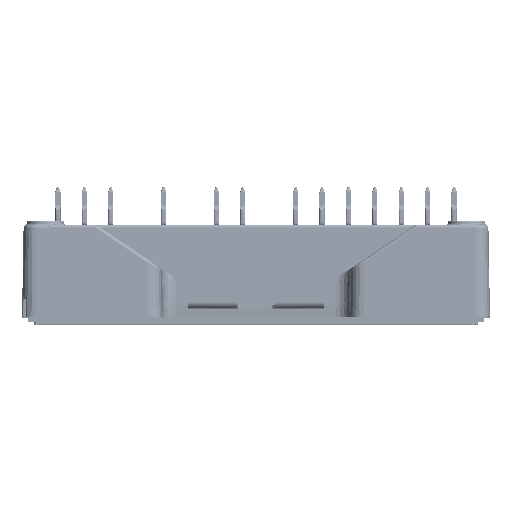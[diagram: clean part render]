
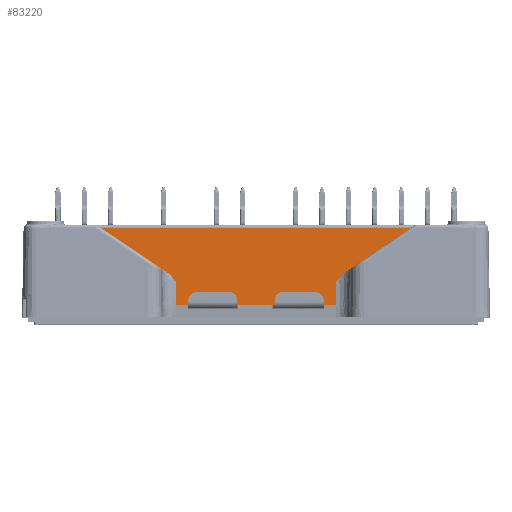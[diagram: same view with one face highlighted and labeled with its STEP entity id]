
A CAD part, top view. The second image highlights one B-rep face of the part: STEP entity #83220.
In plain terms, the highlighted planar face has unit normal (0, 0.018, 1).
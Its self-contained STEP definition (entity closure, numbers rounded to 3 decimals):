
#1144 = DIRECTION ( 'NONE',  ( 1., 0., 0. ) ) ;
#5555 = CARTESIAN_POINT ( 'NONE',  ( -11.35, 2.05, 20.475 ) ) ;
#5610 = DIRECTION ( 'NONE',  ( 1., 0., 0. ) ) ;
#6914 = CARTESIAN_POINT ( 'NONE',  ( -18.767, 11.437, 20.311 ) ) ;
#10019 = CARTESIAN_POINT ( 'NONE',  ( 10.105, 5.426, 20.416 ) ) ;
#10619 = DIRECTION ( 'NONE',  ( 0.829, -0.559, 0.01 ) ) ;
#12024 = LINE ( 'NONE', #53469, #105373 ) ;
#15666 = EDGE_LOOP ( 'NONE', ( #171951, #22594, #20116, #135821, #138695, #17719, #142672, #168791, #123543, #77643 ) ) ;
#17719 = ORIENTED_EDGE ( 'NONE', *, *, #32592, .T. ) ;
#20116 = ORIENTED_EDGE ( 'NONE', *, *, #84706, .T. ) ;
#22594 = ORIENTED_EDGE ( 'NONE', *, *, #107444, .T. ) ;
#27054 = LINE ( 'NONE', #141889, #95610 ) ;
#27498 = CARTESIAN_POINT ( 'NONE',  ( -10.203, 5.543, 20.414 ) ) ;
#31546 = VERTEX_POINT ( 'NONE', #112922 ) ;
#32592 = EDGE_CURVE ( 'NONE', #31546, #37641, #171549, .T. ) ;
#33104 = DIRECTION ( 'NONE',  ( 1., 0., 0. ) ) ;
#35011 = LINE ( 'NONE', #176199, #157099 ) ;
#37641 = VERTEX_POINT ( 'NONE', #130638 ) ;
#38330 = EDGE_CURVE ( 'NONE', #109231, #47536, #74448, .T. ) ;
#38694 = DIRECTION ( 'NONE',  ( 0., -1., 0.017 ) ) ;
#40138 = CARTESIAN_POINT ( 'NONE',  ( 10.066, 5.378, 20.417 ) ) ;
#40266 = EDGE_CURVE ( 'NONE', #37641, #124278, #27054, .T. ) ;
#41601 = CARTESIAN_POINT ( 'NONE',  ( -10.16, 5.493, 20.415 ) ) ;
#47536 = VERTEX_POINT ( 'NONE', #136884 ) ;
#50563 = CARTESIAN_POINT ( 'NONE',  ( 9.75, 4.954, 20.425 ) ) ;
#50855 = CARTESIAN_POINT ( 'NONE',  ( -18.767, 11.437, 20.311 ) ) ;
#53326 = CARTESIAN_POINT ( 'NONE',  ( 10.679, 5.981, 20.407 ) ) ;
#53469 = CARTESIAN_POINT ( 'NONE',  ( -11.35, 11.437, 20.311 ) ) ;
#55744 = CARTESIAN_POINT ( 'NONE',  ( -10.123, 5.449, 20.416 ) ) ;
#63492 = DIRECTION ( 'NONE',  ( 0., -1., 0.017 ) ) ;
#65675 = EDGE_CURVE ( 'NONE', #47536, #31546, #35011, .T. ) ;
#68392 = EDGE_CURVE ( 'NONE', #96694, #107063, #98755, .T. ) ;
#68979 = CARTESIAN_POINT ( 'NONE',  ( 9.65, 4.812, 20.427 ) ) ;
#69896 = CARTESIAN_POINT ( 'NONE',  ( -10.119, 5.443, 20.416 ) ) ;
#70087 = AXIS2_PLACEMENT_3D ( 'NONE', #78549, #134986, #63492 ) ;
#73722 = B_SPLINE_CURVE_WITH_KNOTS ( 'NONE', 3,
 ( #153987, #50563, #138056, #183183, #40138, #181346, #10019, #96650, #179524, #108930, #180415, #137167, #53326 ),
 .UNSPECIFIED., .F., .F.,
 ( 4, 1, 1, 1, 1, 1, 2, 2, 4 ),
 ( 0., 0.25, 0.375, 0.437, 0.469, 0.484, 0.492, 0.5, 1. ),
 .UNSPECIFIED. ) ;
#74448 = LINE ( 'NONE', #134632, #116087 ) ;
#77643 = ORIENTED_EDGE ( 'NONE', *, *, #147871, .T. ) ;
#78549 = CARTESIAN_POINT ( 'NONE',  ( -11.35, 0.63, 20.5 ) ) ;
#78854 = VECTOR ( 'NONE', #10619, 1000. ) ;
#79286 = LINE ( 'NONE', #80221, #142578 ) ;
#80221 = CARTESIAN_POINT ( 'NONE',  ( -9.65, 499000., -8689.566 ) ) ;
#82461 = EDGE_CURVE ( 'NONE', #141862, #174362, #151811, .T. ) ;
#83220 = ADVANCED_FACE ( 'NONE', ( #144449 ), #131282, .T. ) ;
#83971 = CARTESIAN_POINT ( 'NONE',  ( -10.288, 5.639, 20.413 ) ) ;
#84706 = EDGE_CURVE ( 'NONE', #170622, #109231, #79286, .T. ) ;
#84905 = CARTESIAN_POINT ( 'NONE',  ( -10.129, 5.456, 20.416 ) ) ;
#88737 = VECTOR ( 'NONE', #185323, 1000. ) ;
#95543 = CARTESIAN_POINT ( 'NONE',  ( 18.767, 11.437, 20.311 ) ) ;
#95610 = VECTOR ( 'NONE', #113679, 1000. ) ;
#96650 = CARTESIAN_POINT ( 'NONE',  ( 10.11, 5.432, 20.416 ) ) ;
#96694 = VERTEX_POINT ( 'NONE', #98221 ) ;
#96709 = B_SPLINE_CURVE_WITH_KNOTS ( 'NONE', 3,
 ( #155476, #154552, #99993, #83971, #27498, #41601, #184667, #84905, #55744, #69896, #128225, #171460, #130065 ),
 .UNSPECIFIED., .F., .F.,
 ( 4, 1, 1, 1, 1, 1, 2, 2, 4 ),
 ( 0., 0.25, 0.375, 0.438, 0.469, 0.484, 0.492, 0.5, 1. ),
 .UNSPECIFIED. ) ;
#98221 = CARTESIAN_POINT ( 'NONE',  ( 10.679, 5.981, 20.407 ) ) ;
#98755 = LINE ( 'NONE', #142023, #88737 ) ;
#99993 = CARTESIAN_POINT ( 'NONE',  ( -10.454, 5.81, 20.41 ) ) ;
#105373 = VECTOR ( 'NONE', #142844, 1000. ) ;
#107063 = VERTEX_POINT ( 'NONE', #95543 ) ;
#107444 = EDGE_CURVE ( 'NONE', #174362, #170622, #96709, .T. ) ;
#108930 = CARTESIAN_POINT ( 'NONE',  ( 10.114, 5.437, 20.416 ) ) ;
#109231 = VERTEX_POINT ( 'NONE', #129862 ) ;
#112922 = CARTESIAN_POINT ( 'NONE',  ( 8.2, 2.05, 20.475 ) ) ;
#113679 = DIRECTION ( 'NONE',  ( 0., 1., -0.017 ) ) ;
#116087 = VECTOR ( 'NONE', #5610, 1000. ) ;
#121633 = VECTOR ( 'NONE', #1144, 1000. ) ;
#123543 = ORIENTED_EDGE ( 'NONE', *, *, #68392, .T. ) ;
#124278 = VERTEX_POINT ( 'NONE', #68979 ) ;
#128225 = CARTESIAN_POINT ( 'NONE',  ( -10.007, 5.307, 20.418 ) ) ;
#129862 = CARTESIAN_POINT ( 'NONE',  ( -9.65, 2.05, 20.475 ) ) ;
#130065 = CARTESIAN_POINT ( 'NONE',  ( -9.65, 4.812, 20.427 ) ) ;
#130638 = CARTESIAN_POINT ( 'NONE',  ( 9.65, 2.05, 20.475 ) ) ;
#131282 = PLANE ( 'NONE',  #70087 ) ;
#134632 = CARTESIAN_POINT ( 'NONE',  ( -11.35, 2.05, 20.475 ) ) ;
#134986 = DIRECTION ( 'NONE',  ( 0., 0.017, 1. ) ) ;
#135821 = ORIENTED_EDGE ( 'NONE', *, *, #38330, .T. ) ;
#136247 = CARTESIAN_POINT ( 'NONE',  ( -10.679, 5.981, 20.407 ) ) ;
#136884 = CARTESIAN_POINT ( 'NONE',  ( -8.2, 2.05, 20.475 ) ) ;
#137167 = CARTESIAN_POINT ( 'NONE',  ( 10.502, 5.862, 20.409 ) ) ;
#138056 = CARTESIAN_POINT ( 'NONE',  ( 9.884, 5.139, 20.421 ) ) ;
#138695 = ORIENTED_EDGE ( 'NONE', *, *, #65675, .T. ) ;
#141862 = VERTEX_POINT ( 'NONE', #50855 ) ;
#141889 = CARTESIAN_POINT ( 'NONE',  ( 9.65, 499000., -8689.566 ) ) ;
#142023 = CARTESIAN_POINT ( 'NONE',  ( 10.679, 5.981, 20.407 ) ) ;
#142578 = VECTOR ( 'NONE', #38694, 1000. ) ;
#142672 = ORIENTED_EDGE ( 'NONE', *, *, #40266, .T. ) ;
#142844 = DIRECTION ( 'NONE',  ( -1., 0., 0. ) ) ;
#144449 = FACE_OUTER_BOUND ( 'NONE', #15666, .T. ) ;
#147871 = EDGE_CURVE ( 'NONE', #107063, #141862, #12024, .T. ) ;
#151811 = LINE ( 'NONE', #6914, #78854 ) ;
#153987 = CARTESIAN_POINT ( 'NONE',  ( 9.65, 4.812, 20.427 ) ) ;
#154552 = CARTESIAN_POINT ( 'NONE',  ( -10.591, 5.922, 20.408 ) ) ;
#155476 = CARTESIAN_POINT ( 'NONE',  ( -10.679, 5.981, 20.407 ) ) ;
#157099 = VECTOR ( 'NONE', #33104, 1000. ) ;
#166429 = EDGE_CURVE ( 'NONE', #124278, #96694, #73722, .T. ) ;
#168791 = ORIENTED_EDGE ( 'NONE', *, *, #166429, .T. ) ;
#170622 = VERTEX_POINT ( 'NONE', #175876 ) ;
#171460 = CARTESIAN_POINT ( 'NONE',  ( -9.851, 5.097, 20.422 ) ) ;
#171549 = LINE ( 'NONE', #5555, #121633 ) ;
#171951 = ORIENTED_EDGE ( 'NONE', *, *, #82461, .T. ) ;
#174362 = VERTEX_POINT ( 'NONE', #136247 ) ;
#175876 = CARTESIAN_POINT ( 'NONE',  ( -9.65, 4.812, 20.427 ) ) ;
#176199 = CARTESIAN_POINT ( 'NONE',  ( -11.35, 2.05, 20.475 ) ) ;
#179524 = CARTESIAN_POINT ( 'NONE',  ( 10.113, 5.437, 20.416 ) ) ;
#180415 = CARTESIAN_POINT ( 'NONE',  ( 10.315, 5.682, 20.412 ) ) ;
#181346 = CARTESIAN_POINT ( 'NONE',  ( 10.092, 5.41, 20.417 ) ) ;
#183183 = CARTESIAN_POINT ( 'NONE',  ( 10.01, 5.306, 20.418 ) ) ;
#184667 = CARTESIAN_POINT ( 'NONE',  ( -10.139, 5.467, 20.416 ) ) ;
#185323 = DIRECTION ( 'NONE',  ( 0.829, 0.559, -0.01 ) ) ;
